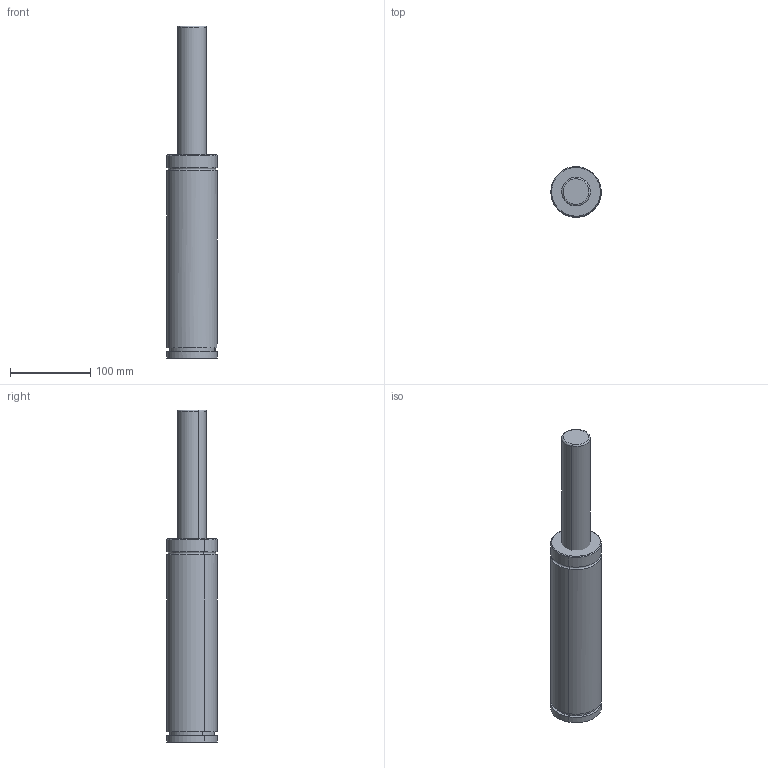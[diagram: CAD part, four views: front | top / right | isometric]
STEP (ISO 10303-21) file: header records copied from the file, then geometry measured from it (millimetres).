
FILE_DESCRIPTION(('CATIA V5 STEP Exchange'),'2;1');
FILE_NAME('W:\CATALOGO GENERAL 2018\FICHEROS CAD\005-TPSP\TPSP 1500\TPSP 1500x160.stp','2017-11-21T08:57:42+00:00',('none'),('none'),'CATIA Version 5 Release 17 (IN-10)','CATIA V5 STEP AP203','none');
FILE_SCHEMA(('CONFIG_CONTROL_DESIGN'));
Length unit declared in the file: millimetre
Products named in the file (1): TPSP 1500x160
Assembly tree (3 placements, depth 2):
  TPSP 1500x160
    #56
    #1015
    #1162
Bounding box: 62.99 x 62.98 x 415 mm (x, y, z)
Volume: 986996.3 mm3; surface area: 85511.8 mm2
Topology: 3 solids, 3 shells, 117 faces, 244 edges, 142 vertices
Faces by surface type: cone 32, cylinder 31, torus 30, plane 24
Entity records: 2903 total; most frequent: CARTESIAN_POINT 540, ORIENTED_EDGE 488, DIRECTION 392, EDGE_CURVE 244, AXIS2_PLACEMENT_3D 233, CIRCLE 152, VERTEX_POINT 142, EDGE_LOOP 126
